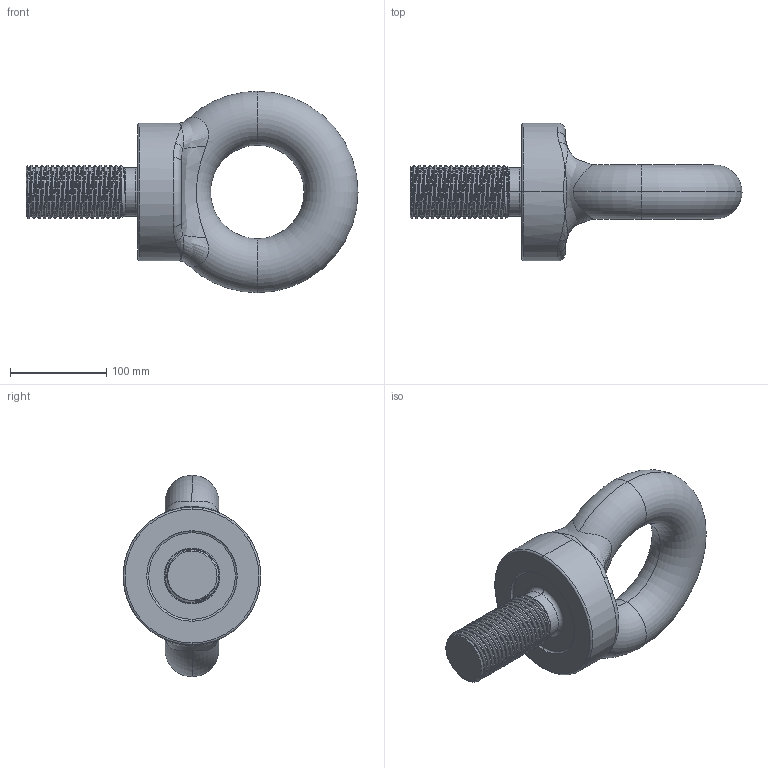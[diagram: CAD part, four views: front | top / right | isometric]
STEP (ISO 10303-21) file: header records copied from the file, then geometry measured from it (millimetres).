
FILE_DESCRIPTION (( 'STEP AP203' ), '1' );
FILE_NAME ('EBMC56.STEP', '2014-02-28T01:48:55', ( '' ), ( '' ), 'SwSTEP 2.0', 'SolidWorks 2012', '' );
FILE_SCHEMA (( 'CONFIG_CONTROL_DESIGN' ));
Length unit declared in the file: millimetre
Products named in the file (1): EBMC56
Bounding box: 344.5 x 143 x 209 mm (x, y, z)
Volume: 2096500.8 mm3; surface area: 146697.7 mm2
Topology: 1 solids, 1 shells, 80 faces, 220 edges, 134 vertices
Faces by surface type: cylinder 40, bspline 19, torus 12, plane 5, cone 4
Entity records: 15425 total; most frequent: CARTESIAN_POINT 13719, ORIENTED_EDGE 424, DIRECTION 262, EDGE_CURVE 212, VERTEX_POINT 134, AXIS2_PLACEMENT_3D 110, EDGE_LOOP 82, ADVANCED_FACE 80
